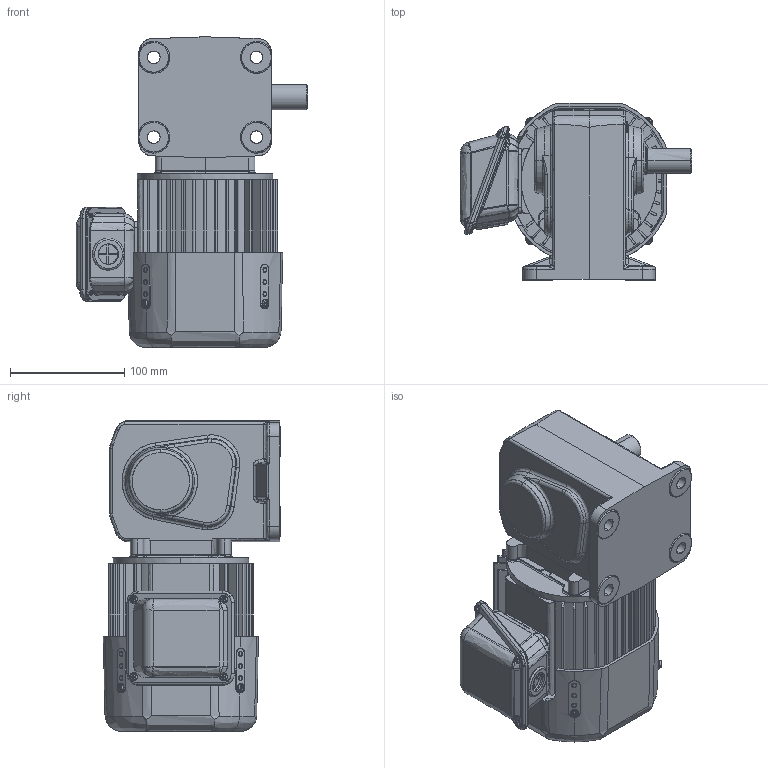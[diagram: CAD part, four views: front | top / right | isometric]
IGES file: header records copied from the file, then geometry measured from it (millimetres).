
Start section: SolidWorks IGES file using analytic representation for surfaces
Global section: file name: \\100.100.100.8\1_共有作業フォルダ\1-5_３Ｄデータ\solidworks\personal-folder\H.Nagayama\HL外形\HL(3D)\igs\TMHLB-01-(5~240)B.IGS; native system: SolidWorks 2018; preprocessor: SolidWorks 2018; author: sigma-giken; date: 200324.145724; units: millimetre
Bounding box: 203 x 155.5 x 272.1 mm (x, y, z)
Surface area: 426998.7 mm2 (no closed solid volume)
Topology: 0 solids, 0 shells, 1869 faces, 23935 edges, 23850 vertices
Faces by surface type: bspline 958, revolution 911
